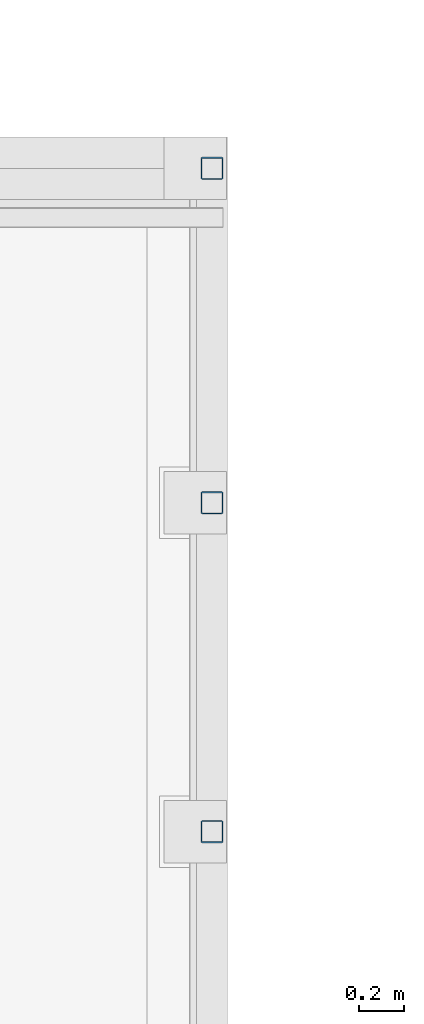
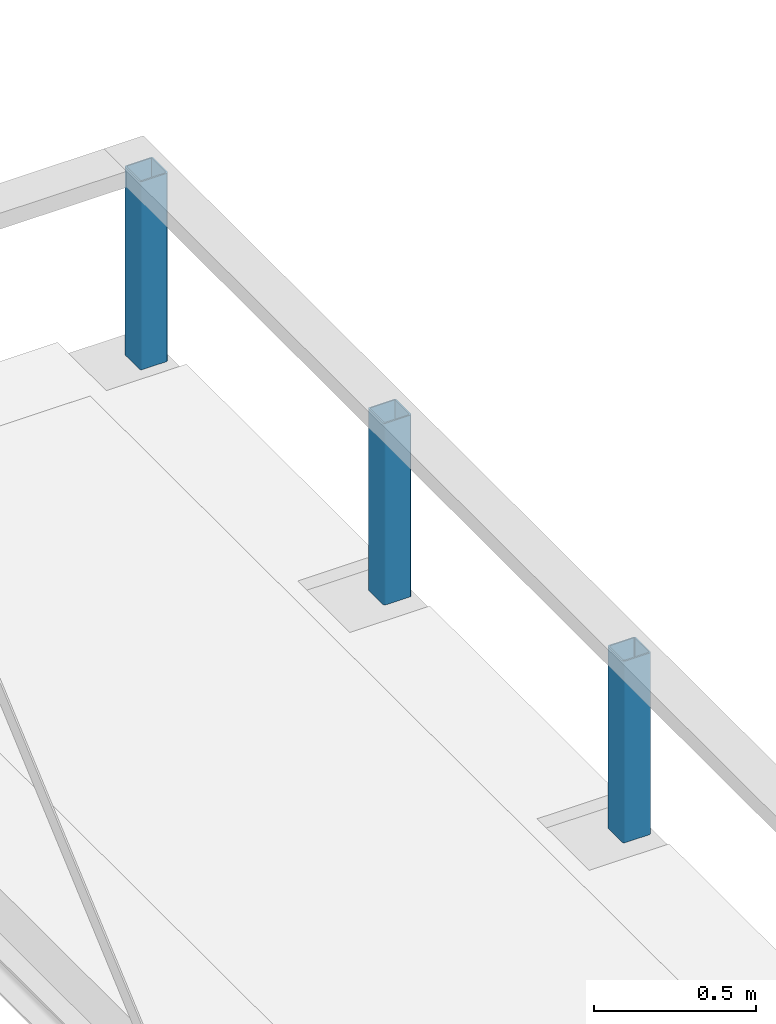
# One storey, part 12 of 68: 3 columns.
"""IFC2X3 building model written with IfcOpenShell, lengths in millimetres."""

from ifc_helpers import new_model, entity, si_unit, converted_unit, derived_unit, direction, frame, frame_2d, origin, place, context, subcontext, project, spatial, polyline, circle_curve, parameter, trimmed, segment, composite_curve, outline, extrude, source, transform, mapped, material, type_object, type_shapes, element, save


model = new_model("IFC2X3")

# Units and contexts
model_context = context("Model", 3, precision=0.01, world=origin(), true_north=direction((6.12303176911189e-17, 1.0)))
body_context = subcontext(model_context, "Body", "Model", "MODEL_VIEW")
ifc_project = project(units=[si_unit("LENGTHUNIT", "METRE", prefix="MILLI"), si_unit("AREAUNIT", "SQUARE_METRE", prefix="MILLI"), si_unit("VOLUMEUNIT", "CUBIC_METRE"), converted_unit("PLANEANGLEUNIT", "DEGREE", entity("IfcRatioMeasure", 0.0174532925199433), si_unit("PLANEANGLEUNIT", "RADIAN"), dimensions=[0, 0, 0, 0, 0, 0, 0]), si_unit("MASSUNIT", "GRAM", prefix="KILO"), derived_unit("MASSDENSITYUNIT", [(si_unit("MASSUNIT", "GRAM", prefix="KILO"), 1), (si_unit("LENGTHUNIT", "METRE"), -3)]), derived_unit("MOMENTOFINERTIAUNIT", [(si_unit("LENGTHUNIT", "METRE"), 4)]), si_unit("TIMEUNIT", "SECOND"), si_unit("FREQUENCYUNIT", "HERTZ"), si_unit("THERMODYNAMICTEMPERATUREUNIT", "DEGREE_CELSIUS"), derived_unit("THERMALTRANSMITTANCEUNIT", [(si_unit("MASSUNIT", "GRAM", prefix="KILO"), 1), (si_unit("THERMODYNAMICTEMPERATUREUNIT", "KELVIN"), -1), (si_unit("TIMEUNIT", "SECOND"), -3)]), derived_unit("VOLUMETRICFLOWRATEUNIT", [(si_unit("LENGTHUNIT", "METRE"), 3), (si_unit("TIMEUNIT", "SECOND"), -1)]), si_unit("ELECTRICCURRENTUNIT", "AMPERE"), si_unit("ELECTRICVOLTAGEUNIT", "VOLT"), si_unit("POWERUNIT", "WATT"), si_unit("FORCEUNIT", "NEWTON", prefix="KILO"), si_unit("ILLUMINANCEUNIT", "LUX"), si_unit("LUMINOUSFLUXUNIT", "LUMEN"), si_unit("LUMINOUSINTENSITYUNIT", "CANDELA"), derived_unit("USERDEFINED", [(si_unit("MASSUNIT", "GRAM", prefix="KILO"), -1), (si_unit("LENGTHUNIT", "METRE"), -2), (si_unit("TIMEUNIT", "SECOND"), 3), (si_unit("LUMINOUSFLUXUNIT", "LUMEN"), 1)]), derived_unit("LINEARVELOCITYUNIT", [(si_unit("LENGTHUNIT", "METRE"), 1), (si_unit("TIMEUNIT", "SECOND"), -1)]), si_unit("PRESSUREUNIT", "PASCAL"), derived_unit("USERDEFINED", [(si_unit("LENGTHUNIT", "METRE"), -2), (si_unit("MASSUNIT", "GRAM", prefix="KILO"), 1), (si_unit("TIMEUNIT", "SECOND"), -2)]), derived_unit("LINEARFORCEUNIT", [(si_unit("MASSUNIT", "GRAM", prefix="KILO"), 1), (si_unit("LENGTHUNIT", "METRE"), 1), (si_unit("TIMEUNIT", "SECOND"), -2), (si_unit("LENGTHUNIT", "METRE"), -1)]), derived_unit("PLANARFORCEUNIT", [(si_unit("MASSUNIT", "GRAM", prefix="KILO"), 1), (si_unit("LENGTHUNIT", "METRE"), 1), (si_unit("TIMEUNIT", "SECOND"), -2), (si_unit("LENGTHUNIT", "METRE"), -2)])], contexts=[model_context])

# Site, building, storey
site_placement = place(None, origin())
site = spatial("IfcSite", under=ifc_project, at=site_placement, Name="Theater aan de Parade", CompositionType="ELEMENT")
building_placement = place(site_placement, origin())
building = spatial("IfcBuilding", under=site, at=building_placement, Name="Theater aan de Parade", CompositionType="ELEMENT")
storey_placement = place(building_placement, frame((0.0, 0.0, 8750.0)))
storey = spatial("IfcBuildingStorey", under=building, at=storey_placement, Name="02 tweede verdieping", CompositionType="ELEMENT", Elevation=8750.0)

# Columns
ifc_material = material(Name="00_PBT_MAT_staal_S355")
column_type_1 = type_object("IfcColumnType", Name="28_PBT_SC_staal_koker:S355_K100x100x5", PredefinedType="COLUMN", material=ifc_material)
shared_shape_1 = source(origin(), body_context, "Body", "SweptSolid", [
    extrude(outline(composite_curve([segment(trimmed(circle_curve(frame_2d((-42.5, -42.5), x_axis=(1.0, 0.0)), 7.5), [parameter(180.0)], [parameter(270.0)], True, "PARAMETER"), True, "CONTINUOUS"), segment(polyline([(-42.5, -50.0), (42.5, -50.0)]), True, "CONTINUOUS"), segment(trimmed(circle_curve(frame_2d((42.5, -42.5), x_axis=(1.0, 0.0)), 7.5), [parameter(270.0)], [parameter(0.0)], True, "PARAMETER"), True, "CONTINUOUS"), segment(polyline([(50.0, -42.5), (50.0, 42.5)]), True, "CONTINUOUS"), segment(trimmed(circle_curve(frame_2d((42.5, 42.5), x_axis=(1.0, 0.0)), 7.5), [parameter(3.56222124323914e-13)], [parameter(90.0000000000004)], True, "PARAMETER"), True, "CONTINUOUS"), segment(polyline([(42.5, 50.0), (-42.5, 50.0)]), True, "CONTINUOUS"), segment(trimmed(circle_curve(frame_2d((-42.5, 42.5), x_axis=(1.0, 0.0)), 7.5), [parameter(90.0)], [parameter(180.0)], True, "PARAMETER"), True, "CONTINUOUS"), segment(polyline([(-50.0, 42.5), (-50.0, -42.5)]), True, "CONTINUOUS")], self_intersect=False), holes=[composite_curve([segment(trimmed(circle_curve(frame_2d((40.0, 40.0), x_axis=(1.0, 0.0)), 5.0), [parameter(0.0)], [parameter(90.0000000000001)], True, "PARAMETER"), False, "CONTINUOUS"), segment(polyline([(45.0, 40.0), (45.0, -40.0)]), True, "CONTINUOUS"), segment(trimmed(circle_curve(frame_2d((40.0, -40.0), x_axis=(1.0, 0.0)), 5.0), [parameter(269.999999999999)], [parameter(360.0)], True, "PARAMETER"), False, "CONTINUOUS"), segment(polyline([(40.0, -45.0), (-40.0, -45.0)]), True, "CONTINUOUS"), segment(trimmed(circle_curve(frame_2d((-40.0, -40.0), x_axis=(1.0, 0.0)), 5.0), [parameter(180.0)], [parameter(270.0)], True, "PARAMETER"), False, "CONTINUOUS"), segment(polyline([(-45.0, -40.0), (-45.0, 40.0)]), True, "CONTINUOUS"), segment(trimmed(circle_curve(frame_2d((-40.0, 40.0), x_axis=(1.0, 0.0)), 5.0), [parameter(89.9999999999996)], [parameter(180.0)], True, "PARAMETER"), False, "CONTINUOUS"), segment(polyline([(-40.0, 45.0), (40.0, 45.0)]), True, "CONTINUOUS")], self_intersect=False)]), frame((0.0, 0.0, 8695.0), z_axis=(0.0, 0.0, 1.0), x_axis=(-1.0, 0.0, 0.0)), (0.0, 0.0, 1.0), 708.000000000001),
])
type_shapes(column_type_1, [shared_shape_1])
column_placement = place(storey_placement, frame((17910.8570032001, 29518.2922984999, -8750.0)))
element("IfcColumn", 1, at=column_placement, inside=storey, type_object=column_type_1, material=ifc_material, Name="28_PBT_SC_staal_koker:S355_K100x100x5", ObjectType="28_PBT_SC_staal_koker:S355_K100x100x5", context=body_context, shape_type="MappedRepresentation", body=[
    mapped(shared_shape_1, transform((0.0, 0.0, 0.0), scale=1.0)),
])
column_type_2 = type_object("IfcColumnType", Name="28_PBT_SC_staal_koker:S355_K100x100x5", PredefinedType="COLUMN", material=ifc_material)
shared_shape_2 = source(origin(), body_context, "Body", "SweptSolid", [
    extrude(outline(composite_curve([segment(trimmed(circle_curve(frame_2d((-42.5, -42.5), x_axis=(1.0, 0.0)), 7.5), [parameter(180.0)], [parameter(270.0)], True, "PARAMETER"), True, "CONTINUOUS"), segment(polyline([(-42.5, -50.0), (42.5, -50.0)]), True, "CONTINUOUS"), segment(trimmed(circle_curve(frame_2d((42.5, -42.5), x_axis=(1.0, 0.0)), 7.5), [parameter(270.0)], [parameter(0.0)], True, "PARAMETER"), True, "CONTINUOUS"), segment(polyline([(50.0, -42.5), (50.0, 42.5)]), True, "CONTINUOUS"), segment(trimmed(circle_curve(frame_2d((42.5, 42.5), x_axis=(1.0, 0.0)), 7.5), [parameter(3.56222124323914e-13)], [parameter(90.0000000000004)], True, "PARAMETER"), True, "CONTINUOUS"), segment(polyline([(42.5, 50.0), (-42.5, 50.0)]), True, "CONTINUOUS"), segment(trimmed(circle_curve(frame_2d((-42.5, 42.5), x_axis=(1.0, 0.0)), 7.5), [parameter(90.0)], [parameter(180.0)], True, "PARAMETER"), True, "CONTINUOUS"), segment(polyline([(-50.0, 42.5), (-50.0, -42.5)]), True, "CONTINUOUS")], self_intersect=False), holes=[composite_curve([segment(trimmed(circle_curve(frame_2d((40.0, 40.0), x_axis=(1.0, 0.0)), 5.0), [parameter(0.0)], [parameter(90.0000000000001)], True, "PARAMETER"), False, "CONTINUOUS"), segment(polyline([(45.0, 40.0), (45.0, -40.0)]), True, "CONTINUOUS"), segment(trimmed(circle_curve(frame_2d((40.0, -40.0), x_axis=(1.0, 0.0)), 5.0), [parameter(269.999999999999)], [parameter(360.0)], True, "PARAMETER"), False, "CONTINUOUS"), segment(polyline([(40.0, -45.0), (-40.0, -45.0)]), True, "CONTINUOUS"), segment(trimmed(circle_curve(frame_2d((-40.0, -40.0), x_axis=(1.0, 0.0)), 5.0), [parameter(180.0)], [parameter(270.0)], True, "PARAMETER"), False, "CONTINUOUS"), segment(polyline([(-45.0, -40.0), (-45.0, 40.0)]), True, "CONTINUOUS"), segment(trimmed(circle_curve(frame_2d((-40.0, 40.0), x_axis=(1.0, 0.0)), 5.0), [parameter(89.9999999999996)], [parameter(180.0)], True, "PARAMETER"), False, "CONTINUOUS"), segment(polyline([(-40.0, 45.0), (40.0, 45.0)]), True, "CONTINUOUS")], self_intersect=False)]), frame((0.0, 0.0, 8720.0), z_axis=(0.0, 0.0, 1.0), x_axis=(-1.0, 0.0, 0.0)), (0.0, 0.0, 1.0), 683.000000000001),
])
type_shapes(column_type_2, [shared_shape_2])
for number, where in (
    (2, (17910.8570032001, 28018.2922984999, -8750.0)),
    (3, (17910.8570032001, 26543.2922984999, -8750.0)),
):
    element("IfcColumn", number, at=place(storey_placement, frame(where)), inside=storey, type_object=column_type_2, material=ifc_material, Name="28_PBT_SC_staal_koker:S355_K100x100x5", ObjectType="28_PBT_SC_staal_koker:S355_K100x100x5", context=body_context, shape_type="MappedRepresentation", body=[
        mapped(shared_shape_2, transform((0.0, 0.0, 0.0), scale=1.0)),
    ])

save(model, "model.ifc")
